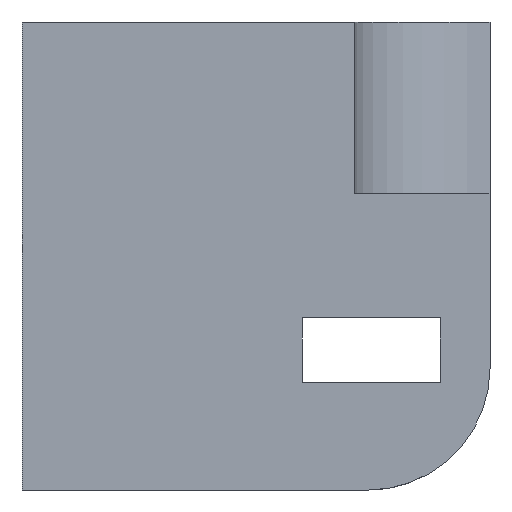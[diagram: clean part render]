
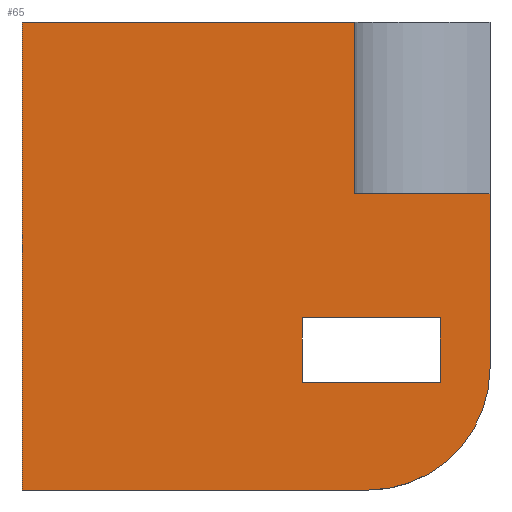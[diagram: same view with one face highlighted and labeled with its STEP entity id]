
A CAD part, left-side view. The second image highlights one B-rep face of the part: STEP entity #65.
In plain terms, the highlighted planar face has unit normal (-1, 0, 0).
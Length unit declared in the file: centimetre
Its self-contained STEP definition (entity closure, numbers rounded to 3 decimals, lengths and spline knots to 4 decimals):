
#1 = DIRECTION ( 'NONE',  ( 0., 1., 0. ) ) ;
#12 = ORIENTED_EDGE ( 'NONE', *, *, #378, .T. ) ;
#17 = LINE ( 'NONE', #424, #53 ) ;
#20 = AXIS2_PLACEMENT_3D ( 'NONE', #754, #582, #759 ) ;
#28 = VERTEX_POINT ( 'NONE', #330 ) ;
#31 = EDGE_LOOP ( 'NONE', ( #612, #321, #674, #499, #733, #618, #328 ) ) ;
#32 = EDGE_CURVE ( 'NONE', #649, #548, #564, .T. ) ;
#38 = CARTESIAN_POINT ( 'NONE',  ( 0., 1000., 1000. ) ) ;
#46 = EDGE_CURVE ( 'NONE', #734, #210, #688, .T. ) ;
#50 = PLANE ( 'NONE',  #271 ) ;
#52 = DIRECTION ( 'NONE',  ( 0., 0., -1. ) ) ;
#53 = VECTOR ( 'NONE', #488, 100. ) ;
#56 = VECTOR ( 'NONE', #418, 100. ) ;
#61 = LINE ( 'NONE', #309, #75 ) ;
#65 = ADVANCED_FACE ( 'NONE', ( #401, #571 ), #50, .F. ) ;
#69 = DIRECTION ( 'NONE',  ( 0., 0., 1. ) ) ;
#75 = VECTOR ( 'NONE', #69, 100. ) ;
#81 = VECTOR ( 'NONE', #110, 100. ) ;
#87 = VERTEX_POINT ( 'NONE', #686 ) ;
#88 = LINE ( 'NONE', #589, #197 ) ;
#100 = ORIENTED_EDGE ( 'NONE', *, *, #170, .T. ) ;
#109 = CARTESIAN_POINT ( 'NONE',  ( 0., 0., 633.166 ) ) ;
#110 = DIRECTION ( 'NONE',  ( 0., 0., -1. ) ) ;
#127 = LINE ( 'NONE', #604, #136 ) ;
#136 = VECTOR ( 'NONE', #646, 100. ) ;
#138 = DIRECTION ( 'NONE',  ( 0., -1., 0. ) ) ;
#145 = VERTEX_POINT ( 'NONE', #638 ) ;
#170 = EDGE_CURVE ( 'NONE', #553, #87, #462, .T. ) ;
#172 = LINE ( 'NONE', #224, #752 ) ;
#182 = EDGE_CURVE ( 'NONE', #87, #449, #702, .T. ) ;
#184 = CARTESIAN_POINT ( 'NONE',  ( 0., 260.3965, 0. ) ) ;
#197 = VECTOR ( 'NONE', #322, 100. ) ;
#209 = VERTEX_POINT ( 'NONE', #184 ) ;
#210 = VERTEX_POINT ( 'NONE', #109 ) ;
#218 = EDGE_LOOP ( 'NONE', ( #100, #503, #12, #454 ) ) ;
#224 = CARTESIAN_POINT ( 'NONE',  ( 0., 0., 1000. ) ) ;
#240 = EDGE_CURVE ( 'NONE', #209, #28, #257, .T. ) ;
#247 = CARTESIAN_POINT ( 'NONE',  ( 0., 1000., 0. ) ) ;
#257 = CIRCLE ( 'NONE', #20, 260.3965 ) ;
#271 = AXIS2_PLACEMENT_3D ( 'NONE', #629, #633, #52 ) ;
#297 = CARTESIAN_POINT ( 'NONE',  ( 0., 106.1464, 230.2686 ) ) ;
#305 = EDGE_CURVE ( 'NONE', #548, #209, #127, .T. ) ;
#309 = CARTESIAN_POINT ( 'NONE',  ( 0., 288.5792, 633.166 ) ) ;
#321 = ORIENTED_EDGE ( 'NONE', *, *, #485, .T. ) ;
#322 = DIRECTION ( 'NONE',  ( 0., 0., 1. ) ) ;
#328 = ORIENTED_EDGE ( 'NONE', *, *, #746, .F. ) ;
#330 = CARTESIAN_POINT ( 'NONE',  ( 0., 0., 260.3965 ) ) ;
#332 = VERTEX_POINT ( 'NONE', #555 ) ;
#378 = EDGE_CURVE ( 'NONE', #449, #332, #88, .T. ) ;
#395 = CARTESIAN_POINT ( 'NONE',  ( 0., 1000., 1000. ) ) ;
#397 = VECTOR ( 'NONE', #1, 100. ) ;
#401 = FACE_BOUND ( 'NONE', #218, .T. ) ;
#405 = DIRECTION ( 'NONE',  ( 0., -1., 0. ) ) ;
#418 = DIRECTION ( 'NONE',  ( 0., 0., -1. ) ) ;
#424 = CARTESIAN_POINT ( 'NONE',  ( 0., 1000., 1000. ) ) ;
#445 = EDGE_CURVE ( 'NONE', #332, #553, #587, .T. ) ;
#449 = VERTEX_POINT ( 'NONE', #644 ) ;
#454 = ORIENTED_EDGE ( 'NONE', *, *, #445, .T. ) ;
#462 = LINE ( 'NONE', #297, #56 ) ;
#485 = EDGE_CURVE ( 'NONE', #734, #145, #61, .T. ) ;
#488 = DIRECTION ( 'NONE',  ( 0., -1., 0. ) ) ;
#499 = ORIENTED_EDGE ( 'NONE', *, *, #32, .T. ) ;
#503 = ORIENTED_EDGE ( 'NONE', *, *, #182, .T. ) ;
#508 = CARTESIAN_POINT ( 'NONE',  ( 0., 106.1464, 367.7545 ) ) ;
#513 = VECTOR ( 'NONE', #405, 100. ) ;
#525 = DIRECTION ( 'NONE',  ( 0., 0., -1. ) ) ;
#530 = VECTOR ( 'NONE', #138, 100. ) ;
#531 = EDGE_CURVE ( 'NONE', #649, #145, #17, .T. ) ;
#548 = VERTEX_POINT ( 'NONE', #247 ) ;
#553 = VERTEX_POINT ( 'NONE', #508 ) ;
#555 = CARTESIAN_POINT ( 'NONE',  ( 0., 401.1017, 367.7545 ) ) ;
#564 = LINE ( 'NONE', #38, #81 ) ;
#571 = FACE_OUTER_BOUND ( 'NONE', #31, .T. ) ;
#582 = DIRECTION ( 'NONE',  ( -1., 0., 0. ) ) ;
#587 = LINE ( 'NONE', #594, #530 ) ;
#589 = CARTESIAN_POINT ( 'NONE',  ( 0., 401.1017, 230.2686 ) ) ;
#594 = CARTESIAN_POINT ( 'NONE',  ( 0., 106.1464, 367.7545 ) ) ;
#604 = CARTESIAN_POINT ( 'NONE',  ( 0., 1000., 0. ) ) ;
#612 = ORIENTED_EDGE ( 'NONE', *, *, #46, .F. ) ;
#618 = ORIENTED_EDGE ( 'NONE', *, *, #240, .T. ) ;
#629 = CARTESIAN_POINT ( 'NONE',  ( 0., 1000., 1000. ) ) ;
#633 = DIRECTION ( 'NONE',  ( 1., 0., 0. ) ) ;
#638 = CARTESIAN_POINT ( 'NONE',  ( 0., 288.5792, 1000. ) ) ;
#644 = CARTESIAN_POINT ( 'NONE',  ( 0., 401.1017, 230.2686 ) ) ;
#646 = DIRECTION ( 'NONE',  ( 0., -1., 0. ) ) ;
#649 = VERTEX_POINT ( 'NONE', #395 ) ;
#674 = ORIENTED_EDGE ( 'NONE', *, *, #531, .F. ) ;
#686 = CARTESIAN_POINT ( 'NONE',  ( 0., 106.1464, 230.2686 ) ) ;
#688 = LINE ( 'NONE', #741, #513 ) ;
#699 = CARTESIAN_POINT ( 'NONE',  ( 0., 106.1464, 230.2686 ) ) ;
#702 = LINE ( 'NONE', #699, #397 ) ;
#733 = ORIENTED_EDGE ( 'NONE', *, *, #305, .T. ) ;
#734 = VERTEX_POINT ( 'NONE', #756 ) ;
#741 = CARTESIAN_POINT ( 'NONE',  ( 0., 1000., 633.166 ) ) ;
#746 = EDGE_CURVE ( 'NONE', #210, #28, #172, .T. ) ;
#752 = VECTOR ( 'NONE', #525, 100. ) ;
#754 = CARTESIAN_POINT ( 'NONE',  ( 0., 260.3965, 260.3965 ) ) ;
#756 = CARTESIAN_POINT ( 'NONE',  ( 0., 288.5792, 633.166 ) ) ;
#759 = DIRECTION ( 'NONE',  ( 0., 0., -1. ) ) ;
